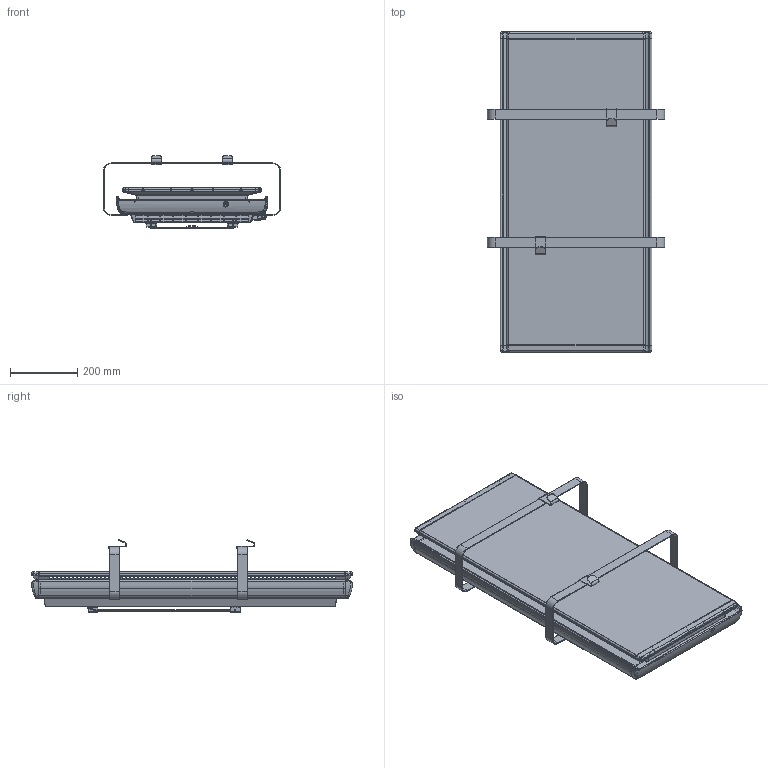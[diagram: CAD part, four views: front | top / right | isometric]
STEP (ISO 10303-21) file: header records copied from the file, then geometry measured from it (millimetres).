
FILE_DESCRIPTION(('FreeCAD Model'),'2;1');
FILE_NAME('Open CASCADE Shape Model','2026-06-08T14:32:30',(''),(''), 'Open CASCADE STEP processor 7.8','FreeCAD','Unknown');
FILE_SCHEMA(('AUTOMOTIVE_DESIGN { 1 0 10303 214 1 1 1 1 }'));
Length unit declared in the file: millimetre
Products named in the file (17): Unnamed; ICO_GANCIO-ACCAPPATOIO001; ICO_GR-POSTERIORE_0750W_ASM; ICO_POSTERIORE_0750W; DEK_AGGANCIO-SUPPORTO; ICO_COPERTURA-LATERALE-COMANDI; ICO_ADESIVO; ICO_GR-ANTERIORE_0750W_ASM; ICO_ANTERIORE_0750W; ICO_ESTRUSO_0750W_DX-DISPLAY; ICO_ESTRUSO_0750W_SX; ICO_TAPPO; ICO_GR-SUPPORTO-MURALE_750-1000_ASM; ICO_SUPPORTO-MURALE-SUP; GLA_TRAVERSA-SUPPORTO; ICO_SUPPORTO-MURALE-INF; ICO_PORTASALVIETTE
Assembly tree (20 placements, depth 3):
  Unnamed
    ICO_GANCIO-ACCAPPATOIO001  x2
    ICO_GR-POSTERIORE_0750W_ASM
      ICO_POSTERIORE_0750W
      DEK_AGGANCIO-SUPPORTO  x2
    ICO_COPERTURA-LATERALE-COMANDI
    ICO_ADESIVO
    ICO_GR-ANTERIORE_0750W_ASM
      ICO_ANTERIORE_0750W
      ICO_ESTRUSO_0750W_DX-DISPLAY
      ICO_ESTRUSO_0750W_SX
      ICO_TAPPO  x2
    ICO_GR-SUPPORTO-MURALE_750-1000_ASM
      ICO_SUPPORTO-MURALE-SUP
      GLA_TRAVERSA-SUPPORTO
      ICO_SUPPORTO-MURALE-INF
    ICO_PORTASALVIETTE  x2
Bounding box: 525 x 950.4 x 215.45 mm (x, y, z)
Volume: 1919942.3 mm3; surface area: 3214540.4 mm2
Topology: 17 solids, 17 shells, 3991 faces, 10841 edges, 6923 vertices
Faces by surface type: plane 2423, cylinder 989, bspline 312, cone 143, torus 94, sphere 30
Entity records: 113320 total; most frequent: CARTESIAN_POINT 32909, ORIENTED_EDGE 17408, DIRECTION 15162, EDGE_CURVE 8704, LINE 5964, VECTOR 5964, VERTEX_POINT 5581, AXIS2_PLACEMENT_3D 4599
